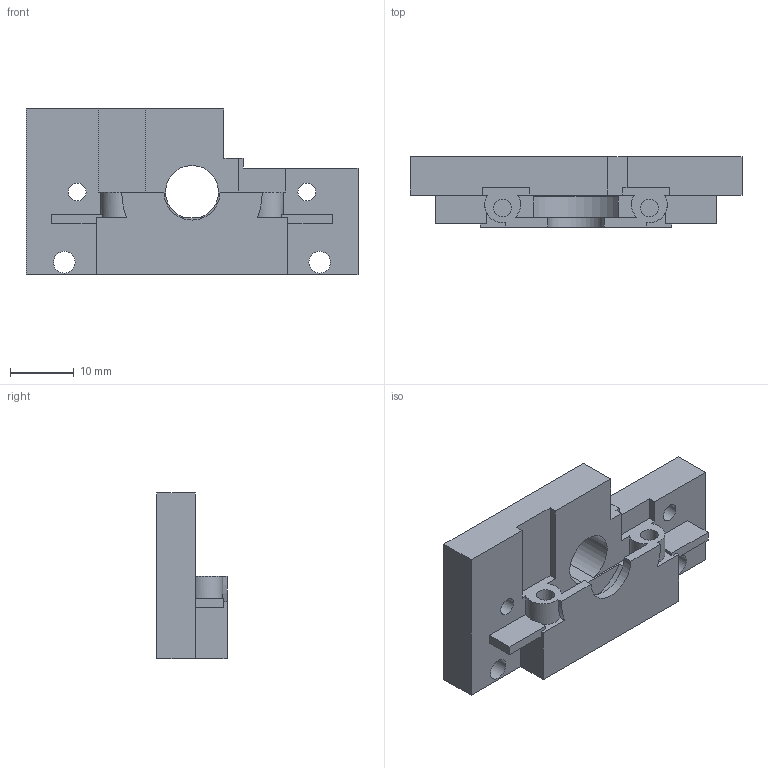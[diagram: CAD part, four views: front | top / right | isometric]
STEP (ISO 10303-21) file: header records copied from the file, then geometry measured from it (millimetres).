
FILE_DESCRIPTION(('Open CASCADE Model'),'2;1');
FILE_NAME('Open CASCADE Shape Model','2026-10-05T13:24:19',('Author'),( 'Open CASCADE'),'Open CASCADE STEP processor 7.8','Open CASCADE 7.8' ,'Unknown');
FILE_SCHEMA(('AUTOMOTIVE_DESIGN { 1 0 10303 214 1 1 1 1 }'));
Length unit declared in the file: millimetre
Products named in the file (1): Open CASCADE STEP translator 7.8 5
Bounding box: 52 x 11 x 26 mm (x, y, z)
Volume: 7809.4 mm3; surface area: 4406 mm2
Topology: 1 solids, 1 shells, 59 faces, 168 edges, 112 vertices
Faces by surface type: plane 44, cylinder 15
Full cylindrical faces by diameter (mm): 2.8 x4, 3.4 x2
Entity records: 4079 total; most frequent: CARTESIAN_POINT 917, DIRECTION 517, ORIENTED_EDGE 336, PCURVE 336, DEFINITIONAL_REPRESENTATION 336, LINE 313, VECTOR 313, EDGE_CURVE 168
